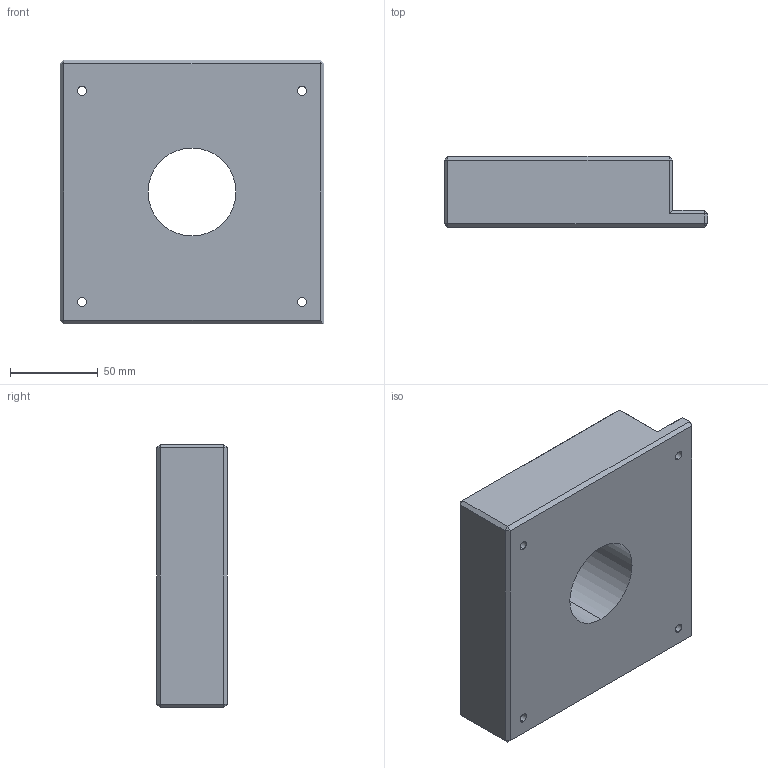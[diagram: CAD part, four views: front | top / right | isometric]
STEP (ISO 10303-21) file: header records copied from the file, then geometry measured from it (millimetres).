
FILE_DESCRIPTION (( 'STEP AP214' ), '1' );
FILE_NAME ('SetupVersion3_TopCover_v3_40_1mm.STEP', '2019-05-24T12:32:35', ( '' ), ( '' ), 'SwSTEP 2.0', 'SolidWorks 2017', '' );
FILE_SCHEMA (( 'AUTOMOTIVE_DESIGN' ));
Length unit declared in the file: millimetre
Products named in the file (1): SetupVersion3_TopCover_v3_40_1mm
Bounding box: 150 x 40.1 x 150 mm (x, y, z)
Volume: 720135.3 mm3; surface area: 72160.8 mm2
Topology: 1 solids, 1 shells, 66 faces, 140 edges, 84 vertices
Faces by surface type: plane 40, cylinder 26
Entity records: 1806 total; most frequent: DIRECTION 326, CARTESIAN_POINT 291, ORIENTED_EDGE 280, EDGE_CURVE 140, AXIS2_PLACEMENT_3D 119, LINE 88, VECTOR 88, VERTEX_POINT 84
